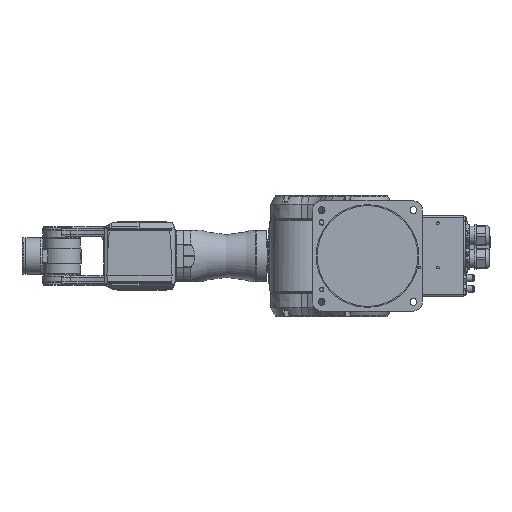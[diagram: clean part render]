
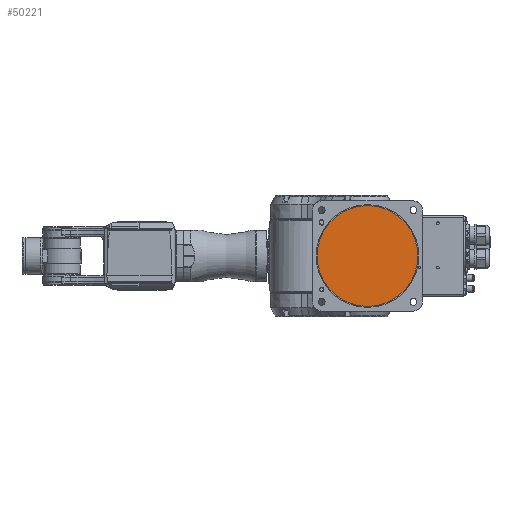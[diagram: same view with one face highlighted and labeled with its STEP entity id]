
A CAD part, front view. The second image highlights one B-rep face of the part: STEP entity #50221.
In plain terms, the highlighted planar face has unit normal (0, -1, 0).
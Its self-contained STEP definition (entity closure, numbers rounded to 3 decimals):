
#604=PLANE('',#52988);
#7558=CIRCLE('',#52987,82.4);
#11287=ORIENTED_EDGE('',*,*,#20400,.F.);
#20400=EDGE_CURVE('',#25123,#25123,#7558,.T.);
#25123=VERTEX_POINT('',#70542);
#29316=EDGE_LOOP('',(#11287));
#32201=FACE_BOUND('',#29316,.T.);
#50221=ADVANCED_FACE('',(#32201),#604,.F.);
#52987=AXIS2_PLACEMENT_3D('',#70541,#58830,#58831);
#52988=AXIS2_PLACEMENT_3D('',#70543,#58832,#58833);
#58830=DIRECTION('',(0.,1.,0.));
#58831=DIRECTION('',(1.,0.,0.));
#58832=DIRECTION('',(0.,1.,0.));
#58833=DIRECTION('',(0.,0.,1.));
#70541=CARTESIAN_POINT('',(0.,1.5,0.));
#70542=CARTESIAN_POINT('',(82.4,1.5,0.));
#70543=CARTESIAN_POINT('',(0.,1.5,0.));
